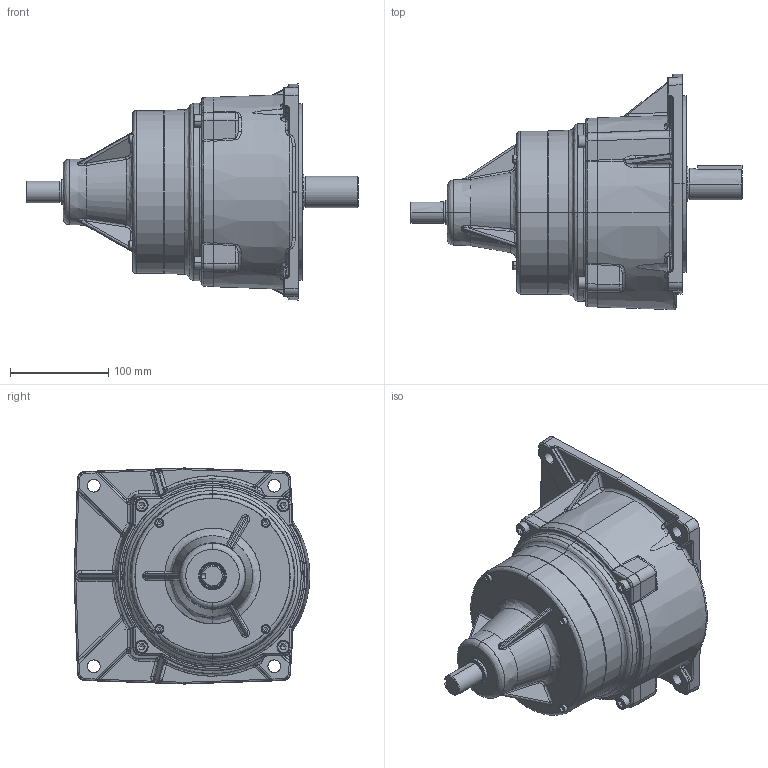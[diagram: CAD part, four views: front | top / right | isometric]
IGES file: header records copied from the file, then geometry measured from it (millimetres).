
Start section: SolidWorks IGES file using analytic representation for surfaces
Bounding box: 338 x 240.19 x 220 mm (x, y, z)
Surface area: 360113.8 mm2 (no closed solid volume)
Topology: 0 solids, 0 shells, 780 faces, 9955 edges, 9936 vertices
Faces by surface type: bspline 472, revolution 308
